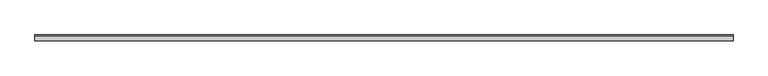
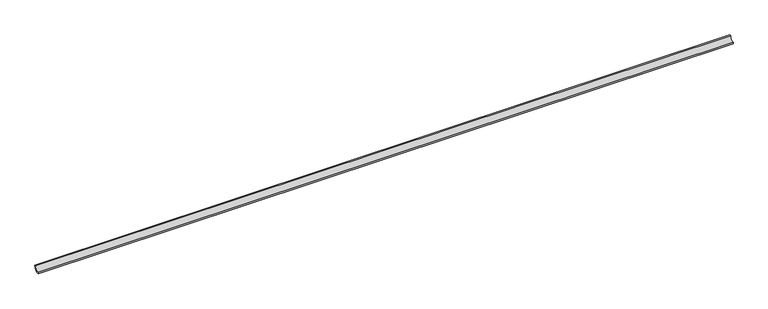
"""IFC4 building model written with IfcOpenShell, lengths in millimetres: proxy geometry, EXAGRES - Piscina Mediacaña1 : Publica_Azul_24.5x4cm."""

import ifcopenshell
import ifcopenshell.guid

model = None  # the IFC model being written
_history = None  # IfcOwnerHistory: only IFC2X3 demands one
_inside = {}  # id of a spatial element -> (the spatial element, [elements in it])
_under = {}  # id of a project, library or spatial element -> (it, [spatial elements below it])
_declared = {}  # id of a project -> (the project, [libraries it declares])
_typed = {}  # id of a type object -> (the type object, [elements of that type])
_made_of = {}  # id of a material, layer set ... -> (it, [elements and type objects made of it])


def new_model(schema):
    """Start an empty IFC model of exactly this schema.

    Asked for "IFC4X3", IfcOpenShell would pick the latest addendum, in which some entities
    have other attributes; the version numbers below select the first issue.
    IFC2X3 requires an IfcOwnerHistory on every rooted entity: one is made here for all.
    """
    global model, _history
    if schema == "IFC4X3":
        model = ifcopenshell.file(schema_version=(4, 3, 0, 0))
    else:
        model = ifcopenshell.file(schema=schema)
    _inside.clear()
    _under.clear()
    _declared.clear()
    _typed.clear()
    _made_of.clear()
    _history = None
    if model.schema == "IFC2X3":
        org = make("IfcOrganization", Name="unknown")
        user = make(
            "IfcPersonAndOrganization",
            ThePerson=make("IfcPerson", FamilyName="unknown"),
            TheOrganization=org,
        )
        app = make(
            "IfcApplication",
            ApplicationDeveloper=org,
            Version="unknown",
            ApplicationFullName="unknown",
            ApplicationIdentifier="unknown",
        )
        _history = make(
            "IfcOwnerHistory",
            OwningUser=user,
            OwningApplication=app,
            ChangeAction="ADDED",
            CreationDate=0,
        )
    return model


def make(cls, **values):
    """One entity of the class cls with the attributes given. An attribute that is None is left unset."""
    return model.create_entity(
        cls, **{name: value for name, value in values.items() if value is not None}
    )


def rooted(cls, **values):
    """An entity with a GlobalId (a new one), such as an element, a storey or a relation."""
    return make(cls, GlobalId=ifcopenshell.guid.new(), OwnerHistory=_history, **values)


def si_unit(unit_type, name, prefix=None):
    """IfcSIUnit, for example si_unit("LENGTHUNIT", "METRE", prefix="MILLI")."""
    return make("IfcSIUnit", UnitType=unit_type, Prefix=prefix, Name=name)


def assignment(units):
    """IfcUnitAssignment: the units of a project."""
    return None if units is None else make("IfcUnitAssignment", Units=units)


def point(xyz):
    """IfcCartesianPoint."""
    return None if xyz is None else make("IfcCartesianPoint", Coordinates=xyz)


def direction(xyz):
    """IfcDirection."""
    return None if xyz is None else make("IfcDirection", DirectionRatios=xyz)


def frame(location, z_axis=None, x_axis=None):
    """IfcAxis2Placement3D, a coordinate frame: its origin and axes. An axis left out is left unset."""
    return make(
        "IfcAxis2Placement3D",
        Location=point(location),
        Axis=direction(z_axis),
        RefDirection=direction(x_axis),
    )


def frame_2d(location, x_axis=None):
    """IfcAxis2Placement2D, a coordinate frame in the plane: its origin and x axis."""
    return make(
        "IfcAxis2Placement2D", Location=point(location), RefDirection=direction(x_axis)
    )


def origin():
    """The frame at (0, 0, 0) with its axes left unset."""
    return frame((0.0, 0.0, 0.0))


def place(relative_to, where):
    """IfcLocalPlacement: puts the frame where relative to a parent placement (None: the world)."""
    return make(
        "IfcLocalPlacement", PlacementRelTo=relative_to, RelativePlacement=where
    )


def context(
    kind, dimensions, precision=None, world=None, true_north=None, identifier=None
):
    """IfcGeometricRepresentationContext, for example the 3D "Model" context."""
    return make(
        "IfcGeometricRepresentationContext",
        ContextIdentifier=identifier,
        ContextType=kind,
        CoordinateSpaceDimension=dimensions,
        Precision=precision,
        WorldCoordinateSystem=world,
        TrueNorth=true_north,
    )


def project(units=None, contexts=None):
    """IfcProject with its units and contexts."""
    return rooted(
        "IfcProject",
        Name="project",
        RepresentationContexts=contexts,
        UnitsInContext=assignment(units),
    )


def spatial(cls, under=None, at=None, **own):
    """A site, building, storey or space (cls), placed at a placement, below another one or the project."""
    s = rooted(cls, ObjectPlacement=at, **own)
    if under is not None:
        _under.setdefault(under.id(), (under, []))[1].append(s)
    return s


def polyline(points):
    """IfcPolyline through the points."""
    return make("IfcPolyline", Points=[point(p) for p in points])


def circle_curve(where, radius):
    """IfcCircle in the frame where."""
    return make("IfcCircle", Position=where, Radius=radius)


def trimmed(basis, trim1, trim2, sense, master):
    """IfcTrimmedCurve: the piece of a basis curve between two trims."""
    return make(
        "IfcTrimmedCurve",
        BasisCurve=basis,
        Trim1=trim1,
        Trim2=trim2,
        SenseAgreement=sense,
        MasterRepresentation=master,
    )


def segment(curve, same_sense, transition):
    """IfcCompositeCurveSegment."""
    return make(
        "IfcCompositeCurveSegment",
        Transition=transition,
        SameSense=same_sense,
        ParentCurve=curve,
    )


def composite_curve(segments, self_intersect=None):
    """IfcCompositeCurve: segments joined end to end."""
    return make("IfcCompositeCurve", Segments=segments, SelfIntersect=self_intersect)


def outline(outer, holes=None, kind="AREA"):
    """IfcArbitraryClosedProfileDef: a profile drawn as a closed curve; with holes, ...WithVoids."""
    if holes is None:
        return make("IfcArbitraryClosedProfileDef", ProfileType=kind, OuterCurve=outer)
    return make(
        "IfcArbitraryProfileDefWithVoids",
        ProfileType=kind,
        OuterCurve=outer,
        InnerCurves=holes,
    )


def extrude(swept, where, along, depth):
    """IfcExtrudedAreaSolid: the profile swept, set in the frame where, extruded along a direction by depth."""
    return make(
        "IfcExtrudedAreaSolid",
        SweptArea=swept,
        Position=where,
        ExtrudedDirection=direction(along),
        Depth=depth,
    )


def shape(context_of_items, identifier, shape_type, items):
    """IfcShapeRepresentation: the items that make up one representation, for example the "Body"."""
    return make(
        "IfcShapeRepresentation",
        ContextOfItems=context_of_items,
        RepresentationIdentifier=identifier,
        RepresentationType=shape_type,
        Items=items,
    )


def source(mapping_origin, context_of_items, identifier, shape_type, items):
    """IfcRepresentationMap: a shape defined once, which mapped items show again and again."""
    return make(
        "IfcRepresentationMap",
        MappingOrigin=mapping_origin,
        MappedRepresentation=shape(context_of_items, identifier, shape_type, items),
    )


def transform(
    local_origin,
    x_axis=None,
    y_axis=None,
    z_axis=None,
    scale=None,
    scale2=None,
    scale3=None,
    uniform=True,
):
    """IfcCartesianTransformationOperator3D, or its non-uniform kind. x_axis, y_axis, z_axis: its Axis1, 2, 3."""
    if uniform:
        return make(
            "IfcCartesianTransformationOperator3D",
            Axis1=direction(x_axis),
            Axis2=direction(y_axis),
            LocalOrigin=point(local_origin),
            Scale=scale,
            Axis3=direction(z_axis),
        )
    return make(
        "IfcCartesianTransformationOperator3DnonUniform",
        Axis1=direction(x_axis),
        Axis2=direction(y_axis),
        LocalOrigin=point(local_origin),
        Scale=scale,
        Axis3=direction(z_axis),
        Scale2=scale2,
        Scale3=scale3,
    )


def mapped(mapping_source, mapping_target):
    """IfcMappedItem: shows the shape of a source again, moved by a transform."""
    return make(
        "IfcMappedItem", MappingSource=mapping_source, MappingTarget=mapping_target
    )


def made_of(thing, what):
    """Note that an element or type object is made of a material, layer set ...; save() writes the relation."""
    if what is not None:
        _made_of.setdefault(what.id(), (what, []))[1].append(thing)
    return thing


def element(
    cls,
    number,
    at=None,
    inside=None,
    cuts=None,
    type_object=None,
    material=None,
    context=None,
    identifier="Body",
    shape_type=None,
    held_by="IfcProductDefinitionShape",
    body=None,
    shapes=None,
    **own,
):
    """One element of the class cls, such as IfcWall. Its Tag is "e" and its number.

    at: its placement. inside: the storey or other place that contains it. cuts: it is an
    opening in that element (IfcRelVoidsElement). A single representation is given by context,
    identifier, shape_type and body (its items); several are given by shapes. held_by: the class
    of the entity that holds the representations. save() writes the other relations.
    """
    e = rooted(cls, Tag="e%d" % number, ObjectPlacement=at, **own)
    if body is not None:
        shapes = [shape(context, identifier, shape_type, body)]
    if shapes is not None:
        e.Representation = make(held_by, Representations=shapes)
    if inside is not None:
        _inside.setdefault(inside.id(), (inside, []))[1].append(e)
    if cuts is not None:
        rooted(
            "IfcRelVoidsElement", RelatingBuildingElement=cuts, RelatedOpeningElement=e
        )
    if type_object is not None:
        _typed.setdefault(type_object.id(), (type_object, []))[1].append(e)
    return made_of(e, material)


def aggregate(whole, parts):
    """IfcRelAggregates: a whole, such as a stair, and the parts it consists of."""
    return rooted("IfcRelAggregates", RelatingObject=whole, RelatedObjects=parts)


def save(model, path):
    """Write the relations noted so far, then the file.

    IfcRelAggregates (storeys below a building ...), IfcRelContainedInSpatialStructure (elements
    in a storey), IfcRelDefinesByType, IfcRelAssociatesMaterial and IfcRelDeclares: one each for
    every whole, place, type object, material and project.
    """
    for whole, parts in _under.values():
        aggregate(whole, parts)
    for where, things in _inside.values():
        rooted(
            "IfcRelContainedInSpatialStructure",
            RelatedElements=things,
            RelatingStructure=where,
        )
    for kind, things in _typed.values():
        rooted("IfcRelDefinesByType", RelatedObjects=things, RelatingType=kind)
    for what, things in _made_of.values():
        rooted("IfcRelAssociatesMaterial", RelatedObjects=things, RelatingMaterial=what)
    for by, libraries in _declared.values():
        rooted("IfcRelDeclares", RelatingContext=by, RelatedDefinitions=libraries)
    model.write(path)


def generic_models_0ac0a968(model_context):
    return source(origin(), model_context, "Body", "SweptSolid", [
        extrude(outline(composite_curve([segment(trimmed(circle_curve(frame_2d((-26.0, 26.0)), 26.0), [point((-26.0, 0.0))], [point((0.0, 26.0))], True, "CARTESIAN"), True, "CONTINUOUS"), segment(polyline([(0.0, 26.0), (8.5, 26.0)]), True, "CONTINUOUS"), segment(trimmed(circle_curve(frame_2d((-26.0, 26.0)), 34.5), [point((8.5, 26.0))], [point((-26.0, -8.5))], False, "CARTESIAN"), True, "CONTINUOUS"), segment(polyline([(-26.0, -8.5), (-26.0, 0.0)]), True, "CONTINUOUS")], self_intersect=False)), frame((0.0, 0.0, 0.0), z_axis=(1.0, 0.0, 0.0), x_axis=(0.0, 1.0, 0.0)), (0.0, 0.0, 1.0), 4125.0),
    ])


if __name__ == "__main__":
    model = new_model("IFC4")
    model_context = context("Model", 3, world=origin())
    ifc_project = project(units=[si_unit("LENGTHUNIT", "METRE", prefix="MILLI")], contexts=[model_context])
    site = spatial("IfcSite", under=ifc_project)
    building = spatial("IfcBuilding", under=site)
    placement = place(None, origin())
    generic_models_shape = generic_models_0ac0a968(model_context)
    element("IfcBuildingElementProxy", 1, Name="EXAGRES - Piscina Mediacaña1 : Publica_Azul_24.5x4cm", ObjectType="EXAGRES - Piscina Mediacaña1 : Publica_Azul_24.5x4cm", at=placement, inside=building, context=model_context, shape_type="MappedRepresentation", body=[
        mapped(generic_models_shape, transform((0.0, 0.0, 0.0), x_axis=(1.0, 0.0, 0.0), y_axis=(0.0, 1.0, 0.0), z_axis=(0.0, 0.0, 1.0))),
    ])
    save(model, "model.ifc")
